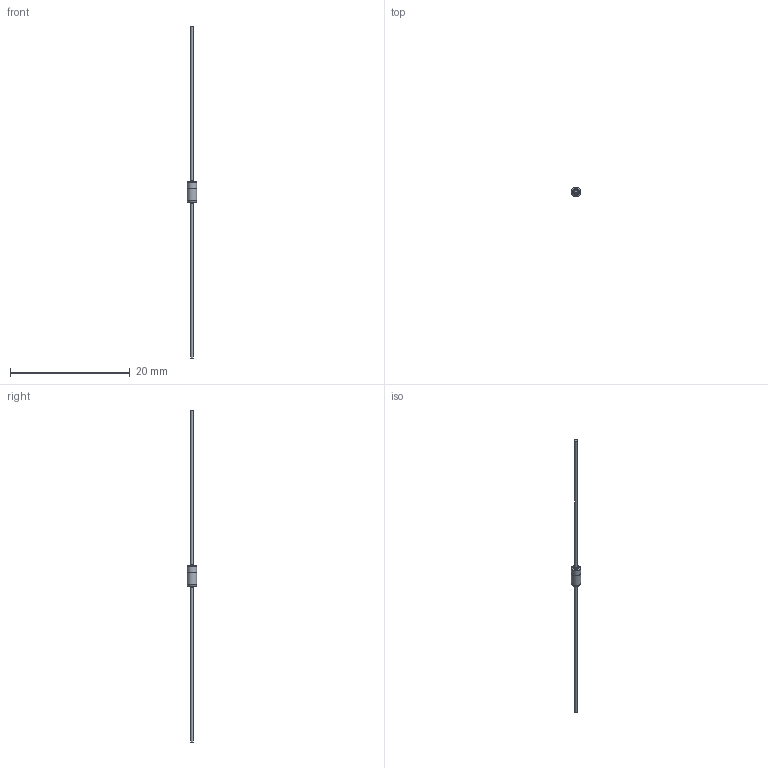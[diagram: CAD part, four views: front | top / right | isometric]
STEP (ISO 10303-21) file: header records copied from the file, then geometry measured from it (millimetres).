
FILE_DESCRIPTION(/* description */ (''),/* implementation_level */ '2;1');
FILE_NAME(/* name */ 'K:\ba\DCC\898_16\DO_35_39060431.stp',/* time_stamp */ '2016-12-12T16:01:41+01:00',/* author */ ('brotzinger'),/* organization */ (''),/* preprocessor_version */ 'ST-DEVELOPER v15.2',/* originating_system */ 'Autodesk Inventor 2014',/* authorisation */ '');
FILE_SCHEMA (('AUTOMOTIVE_DESIGN { 1 0 10303 214 3 1 1 }'));
Length unit declared in the file: millimetre
Products named in the file (1): 39060431
Bounding box: 1.6 x 1.6 x 55.5 mm (x, y, z)
Volume: 16.1 mm3; surface area: 97.8 mm2
Topology: 1 solids, 1 shells, 14 faces, 21 edges, 13 vertices
Faces by surface type: plane 6, torus 4, cylinder 4
Full cylindrical faces by diameter (mm): 0.475 x2, 1.598 x1, 1.6 x1
Entity records: 321 total; most frequent: DIRECTION 56, CARTESIAN_POINT 41, AXIS2_PLACEMENT_3D 28, EDGE_LOOP 26, ORIENTED_EDGE 26, FACE_BOUND 15, ADVANCED_FACE 14, CIRCLE 13
